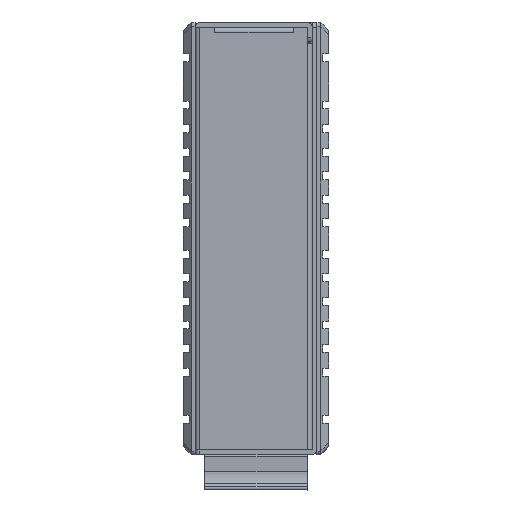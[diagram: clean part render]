
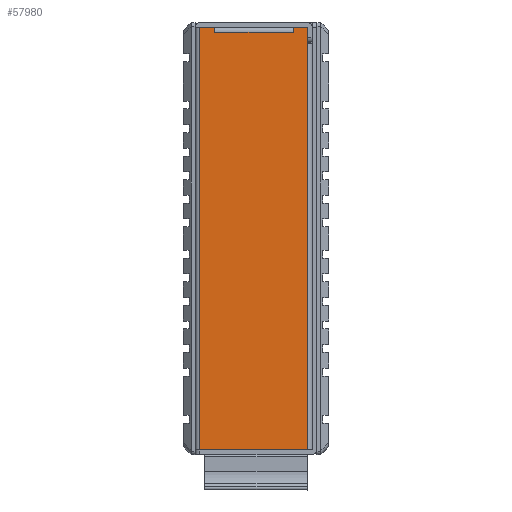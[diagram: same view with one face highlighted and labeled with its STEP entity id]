
A CAD part, front view. The second image highlights one B-rep face of the part: STEP entity #57980.
In plain terms, the highlighted planar face has unit normal (0, -1, 0).
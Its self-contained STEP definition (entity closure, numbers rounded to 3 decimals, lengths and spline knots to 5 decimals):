
#5103=LINE('',#104332,#11382);
#5106=LINE('',#104341,#11385);
#5110=LINE('',#104350,#11389);
#5113=LINE('',#104356,#11392);
#5115=LINE('',#104359,#11394);
#5239=LINE('',#104734,#11518);
#5242=LINE('',#104743,#11521);
#5245=LINE('',#104754,#11524);
#5271=LINE('',#104841,#11550);
#5274=LINE('',#104846,#11553);
#5284=LINE('',#104888,#11563);
#5285=LINE('',#104890,#11564);
#11382=VECTOR('',#74743,1.);
#11385=VECTOR('',#74752,1.);
#11389=VECTOR('',#74758,1.);
#11392=VECTOR('',#74763,1.);
#11394=VECTOR('',#74767,1.);
#11518=VECTOR('',#75127,1.);
#11521=VECTOR('',#75134,1.);
#11524=VECTOR('',#75143,1.);
#11550=VECTOR('',#75227,1.);
#11553=VECTOR('',#75232,1.);
#11563=VECTOR('',#75278,1.);
#11564=VECTOR('',#75281,1.);
#27700=ORIENTED_EDGE('',*,*,#37547,.F.);
#27701=ORIENTED_EDGE('',*,*,#37552,.F.);
#27702=ORIENTED_EDGE('',*,*,#37539,.F.);
#27703=ORIENTED_EDGE('',*,*,#37550,.F.);
#27704=ORIENTED_EDGE('',*,*,#37543,.F.);
#27705=ORIENTED_EDGE('',*,*,#37813,.T.);
#27706=ORIENTED_EDGE('',*,*,#37742,.T.);
#27707=ORIENTED_EDGE('',*,*,#37791,.T.);
#27708=ORIENTED_EDGE('',*,*,#37733,.F.);
#27709=ORIENTED_EDGE('',*,*,#37788,.T.);
#27710=ORIENTED_EDGE('',*,*,#37737,.T.);
#27711=ORIENTED_EDGE('',*,*,#37814,.T.);
#37539=EDGE_CURVE('',#43715,#43716,#5103,.T.);
#37543=EDGE_CURVE('',#43718,#43719,#5106,.T.);
#37547=EDGE_CURVE('',#43722,#43723,#5110,.T.);
#37550=EDGE_CURVE('',#43719,#43715,#5113,.T.);
#37552=EDGE_CURVE('',#43716,#43722,#5115,.T.);
#37733=EDGE_CURVE('',#43857,#43858,#5239,.T.);
#37737=EDGE_CURVE('',#43862,#43861,#5242,.T.);
#37742=EDGE_CURVE('',#43864,#43866,#5245,.T.);
#37788=EDGE_CURVE('',#43857,#43862,#5271,.T.);
#37791=EDGE_CURVE('',#43866,#43858,#5274,.T.);
#37813=EDGE_CURVE('',#43718,#43864,#5284,.T.);
#37814=EDGE_CURVE('',#43861,#43723,#5285,.T.);
#43715=VERTEX_POINT('',#104329);
#43716=VERTEX_POINT('',#104333);
#43718=VERTEX_POINT('',#104340);
#43719=VERTEX_POINT('',#104342);
#43722=VERTEX_POINT('',#104349);
#43723=VERTEX_POINT('',#104351);
#43857=VERTEX_POINT('',#104733);
#43858=VERTEX_POINT('',#104735);
#43861=VERTEX_POINT('',#104742);
#43862=VERTEX_POINT('',#104744);
#43864=VERTEX_POINT('',#104749);
#43866=VERTEX_POINT('',#104753);
#48565=EDGE_LOOP('',(#27700,#27701,#27702,#27703,#27704,#27705,#27706,#27707,
#27708,#27709,#27710,#27711));
#52370=FACE_BOUND('',#48565,.T.);
#55050=PLANE('',#62528);
#57980=ADVANCED_FACE('',(#52370),#55050,.F.);
#62528=AXIS2_PLACEMENT_3D('',#104893,#75285,#75286);
#74743=DIRECTION('',(1.,0.,0.));
#74752=DIRECTION('',(0.,0.,-1.));
#74758=DIRECTION('',(0.,0.,1.));
#74763=DIRECTION('',(1.,0.,0.));
#74767=DIRECTION('',(1.,0.,0.));
#75127=DIRECTION('',(0.,0.,-1.));
#75134=DIRECTION('',(0.,0.,1.));
#75143=DIRECTION('',(0.,0.,-1.));
#75227=DIRECTION('',(-1.,0.,0.));
#75232=DIRECTION('',(1.,0.,0.));
#75278=DIRECTION('',(-1.,0.,0.));
#75281=DIRECTION('',(-1.,0.,0.));
#75285=DIRECTION('',(0.,1.,0.));
#75286=DIRECTION('',(-1.,0.,0.));
#104329=CARTESIAN_POINT('',(-0.05383,-0.08743,0.05199));
#104332=CARTESIAN_POINT('',(-0.05883,-0.08743,0.05199));
#104333=CARTESIAN_POINT('',(-0.03383,-0.08743,0.05199));
#104340=CARTESIAN_POINT('',(-0.05384,-0.08743,0.05319));
#104341=CARTESIAN_POINT('',(-0.05384,-0.08743,0.0544));
#104342=CARTESIAN_POINT('',(-0.05384,-0.08743,0.05199));
#104349=CARTESIAN_POINT('',(-0.03382,-0.08743,0.05199));
#104350=CARTESIAN_POINT('',(-0.03382,-0.08743,0.0544));
#104351=CARTESIAN_POINT('',(-0.03382,-0.08743,0.05319));
#104356=CARTESIAN_POINT('',(-0.05883,-0.08743,0.05199));
#104359=CARTESIAN_POINT('',(-0.05883,-0.08743,0.05199));
#104733=CARTESIAN_POINT('',(-0.03023,-0.08743,0.04909));
#104734=CARTESIAN_POINT('',(-0.03023,-0.08743,0.0544));
#104735=CARTESIAN_POINT('',(-0.03023,-0.08743,-0.0544));
#104742=CARTESIAN_POINT('',(-0.03024,-0.08743,0.05319));
#104743=CARTESIAN_POINT('',(-0.03024,-0.08743,0.0544));
#104744=CARTESIAN_POINT('',(-0.03024,-0.08743,0.04909));
#104749=CARTESIAN_POINT('',(-0.05763,-0.08743,0.05319));
#104753=CARTESIAN_POINT('',(-0.05763,-0.08743,-0.0544));
#104754=CARTESIAN_POINT('',(-0.05763,-0.08743,0.0544));
#104841=CARTESIAN_POINT('',(-0.05883,-0.08743,0.04909));
#104846=CARTESIAN_POINT('',(-0.05883,-0.08743,-0.0544));
#104888=CARTESIAN_POINT('',(-0.05883,-0.08743,0.05319));
#104890=CARTESIAN_POINT('',(-0.05883,-0.08743,0.05319));
#104893=CARTESIAN_POINT('',(-0.05883,-0.08743,0.0544));
